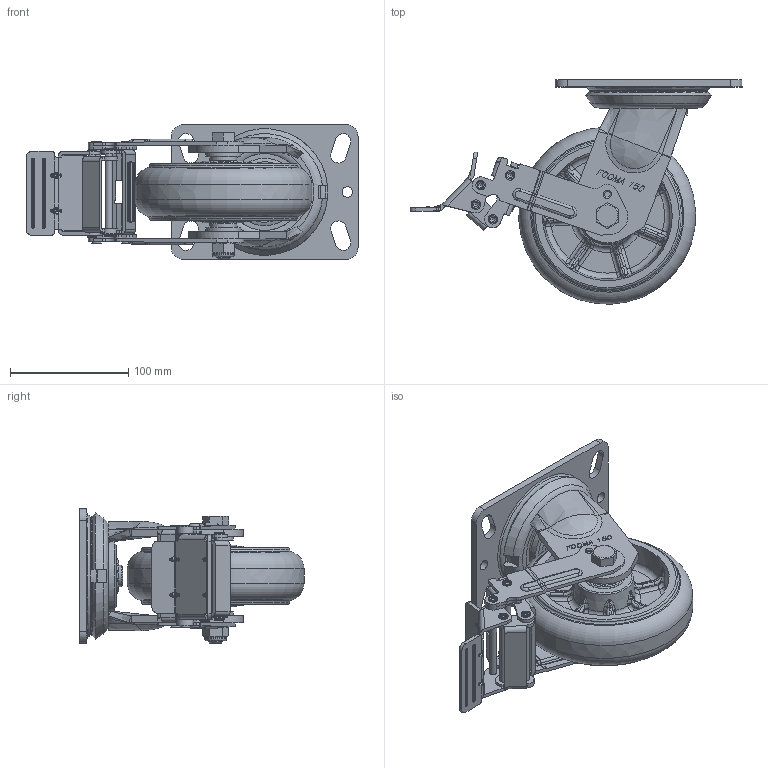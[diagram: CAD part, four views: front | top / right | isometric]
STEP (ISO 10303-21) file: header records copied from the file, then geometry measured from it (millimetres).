
FILE_DESCRIPTION(/* description */ (''),/* implementation_level */ '2;1');
FILE_NAME(/* name */ 'E:\★.DWG\PMH-SERIES\3D\홈페이지용\20180122-STEP\PMH-150-BSF-MUD.stp',/* time_stamp */ '2018-01-22T14:48:02+09:00',/* author */ ('장용하'),/* organization */ (''),/* preprocessor_version */ 'ST-DEVELOPER v16.13',/* originating_system */ 'Autodesk Inventor 2018',/* authorisation */ '');
FILE_SCHEMA (('AUTOMOTIVE_DESIGN { 1 0 10303 214 3 1 1 }'));
Length unit declared in the file: millimetre
Products named in the file (1): PMH-150-BSF-MUD_Shrinkwrap_1
Bounding box: 280.92 x 189.94 x 114 mm (x, y, z)
Volume: 915063.2 mm3; surface area: 208540.6 mm2
Topology: 3 solids, 3 shells, 2284 faces, 5907 edges, 3690 vertices
Faces by surface type: plane 1230, cylinder 494, bspline 413, torus 105, cone 34, sphere 8
Full cylindrical faces by diameter (mm): 4 x4, 5 x2, 6 x4, 6.2 x13, 7.7 x2, 8 x10, 9 x2, 12 x1, 18 x1, 18.5 x1, 21.667 x2, 21.867 x2, 22.9 x2, 28.133 x2, 28.333 x2, 30 x2, 35 x2, 65 x1, 90.814 x1, 125 x2
Entity records: 80034 total; most frequent: CARTESIAN_POINT 23940, ORIENTED_EDGE 11446, DIRECTION 10517, EDGE_CURVE 5723, VERTEX_POINT 3656, LINE 3643, VECTOR 3643, AXIS2_PLACEMENT_3D 3437
